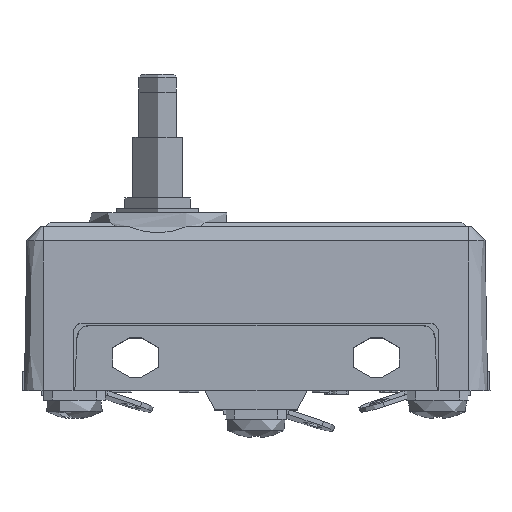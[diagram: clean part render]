
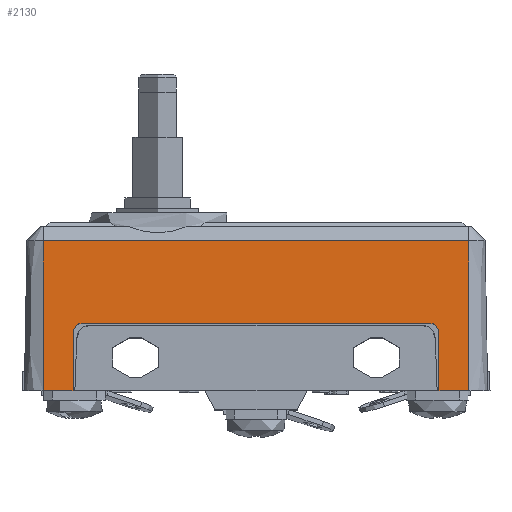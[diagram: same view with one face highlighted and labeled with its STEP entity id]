
A CAD part, top view. The second image highlights one B-rep face of the part: STEP entity #2130.
In plain terms, the highlighted planar face has unit normal (0, 0.018, 1).
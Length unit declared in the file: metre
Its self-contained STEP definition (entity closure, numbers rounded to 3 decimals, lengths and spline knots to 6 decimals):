
#432=CARTESIAN_POINT('',(-0.026391,-0.003833,0.057942));
#433=VERTEX_POINT('',#432);
#436=CARTESIAN_POINT('',(-0.026391,-0.003833,0.057942));
#437=DIRECTION('',(0.,1.,-0.017));
#438=VECTOR('',#437,1.);
#439=LINE('',#436,#438);
#440=CARTESIAN_POINT('',(-0.026391,-0.010032,0.05805));
#441=VERTEX_POINT('',#440);
#442=EDGE_CURVE('',#441,#433,#439,.T.);
#482=CARTESIAN_POINT('',(-0.025391,-0.002833,0.057924));
#483=VERTEX_POINT('',#482);
#486=CARTESIAN_POINT('',(-0.025391,-0.003833,0.057942));
#487=DIRECTION('',(0.,-0.017,-1.));
#488=DIRECTION('',(1.,0.,0.));
#489=AXIS2_PLACEMENT_3D('',#486,#487,#488);
#490=ELLIPSE('',#489,0.001,0.001);
#491=EDGE_CURVE('',#433,#483,#490,.T.);
#522=CARTESIAN_POINT('',(0.011709,-0.002833,0.057924));
#523=VERTEX_POINT('',#522);
#526=CARTESIAN_POINT('',(0.011709,-0.002833,0.057924));
#527=DIRECTION('',(1.,0.,0.));
#528=VECTOR('',#527,1.);
#529=LINE('',#526,#528);
#530=EDGE_CURVE('',#483,#523,#529,.T.);
#563=CARTESIAN_POINT('',(0.012709,-0.010032,0.05805));
#564=VERTEX_POINT('',#563);
#567=CARTESIAN_POINT('',(0.012709,-0.010032,0.05805));
#568=DIRECTION('',(0.,-1.,0.017));
#569=VECTOR('',#568,1.);
#570=LINE('',#567,#569);
#571=CARTESIAN_POINT('',(0.012709,-0.003833,0.057942));
#572=VERTEX_POINT('',#571);
#573=EDGE_CURVE('',#572,#564,#570,.T.);
#780=CARTESIAN_POINT('',(0.015909,-0.010032,0.05805));
#781=VERTEX_POINT('',#780);
#797=CARTESIAN_POINT('',(0.015909,0.005968,0.057771));
#798=VERTEX_POINT('',#797);
#801=CARTESIAN_POINT('',(0.015909,-0.010032,0.05805));
#802=DIRECTION('',(0.,-1.,0.017));
#803=VECTOR('',#802,1.);
#804=LINE('',#801,#803);
#805=EDGE_CURVE('',#798,#781,#804,.T.);
#1811=CARTESIAN_POINT('',(-0.029591,-0.010032,0.05805));
#1812=DIRECTION('',(-1.,0.,0.));
#1813=VECTOR('',#1812,1.);
#1814=LINE('',#1811,#1813);
#1815=EDGE_CURVE('',#781,#564,#1814,.T.);
#2079=CARTESIAN_POINT('',(0.011709,-0.003833,0.057942));
#2080=DIRECTION('',(0.,-0.017,-1.));
#2081=DIRECTION('',(1.,0.,0.));
#2082=AXIS2_PLACEMENT_3D('',#2079,#2080,#2081);
#2083=ELLIPSE('',#2082,0.001,0.001);
#2084=EDGE_CURVE('',#523,#572,#2083,.T.);
#2098=CARTESIAN_POINT('',(-0.029591,-0.010032,0.05805));
#2099=DIRECTION('',(0.,0.017,1.));
#2100=DIRECTION('',(0.,-1.,0.017));
#2101=AXIS2_PLACEMENT_3D('',#2098,#2099,#2100);
#2102=PLANE('',#2101);
#2103=ORIENTED_EDGE('',*,*,#2084,.T.);
#2104=ORIENTED_EDGE('',*,*,#573,.T.);
#2105=ORIENTED_EDGE('',*,*,#1815,.F.);
#2106=ORIENTED_EDGE('',*,*,#805,.F.);
#2107=CARTESIAN_POINT('',(0.015909,0.005968,0.057771));
#2108=DIRECTION('',(-1.,0.,0.));
#2109=VECTOR('',#2108,1.);
#2110=LINE('',#2107,#2109);
#2111=CARTESIAN_POINT('',(-0.029591,0.005968,0.057771));
#2112=VERTEX_POINT('',#2111);
#2113=EDGE_CURVE('',#798,#2112,#2110,.T.);
#2114=ORIENTED_EDGE('',*,*,#2113,.T.);
#2115=CARTESIAN_POINT('',(-0.029591,-0.010032,0.05805));
#2116=DIRECTION('',(0.,-1.,0.017));
#2117=VECTOR('',#2116,1.);
#2118=LINE('',#2115,#2117);
#2119=CARTESIAN_POINT('',(-0.029591,-0.010032,0.05805));
#2120=VERTEX_POINT('',#2119);
#2121=EDGE_CURVE('',#2112,#2120,#2118,.T.);
#2122=ORIENTED_EDGE('',*,*,#2121,.T.);
#2123=EDGE_CURVE('',#441,#2120,#1814,.T.);
#2124=ORIENTED_EDGE('',*,*,#2123,.F.);
#2125=ORIENTED_EDGE('',*,*,#442,.T.);
#2126=ORIENTED_EDGE('',*,*,#491,.T.);
#2127=ORIENTED_EDGE('',*,*,#530,.T.);
#2128=EDGE_LOOP('',(#2103,#2104,#2105,#2106,#2114,#2122,#2124,#2125,#2126,#2127));
#2129=FACE_BOUND('',#2128,.T.);
#2130=ADVANCED_FACE('',(#2129),#2102,.T.);
